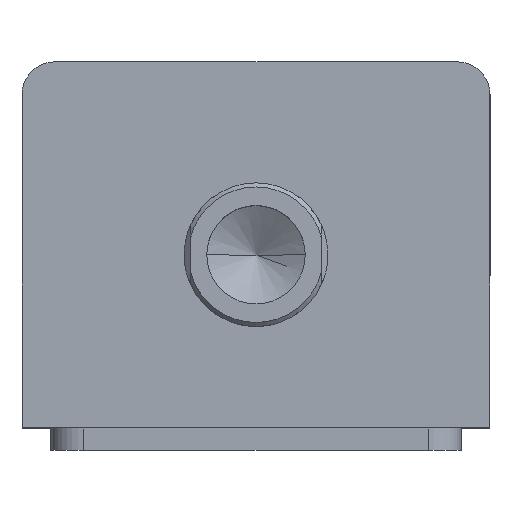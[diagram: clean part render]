
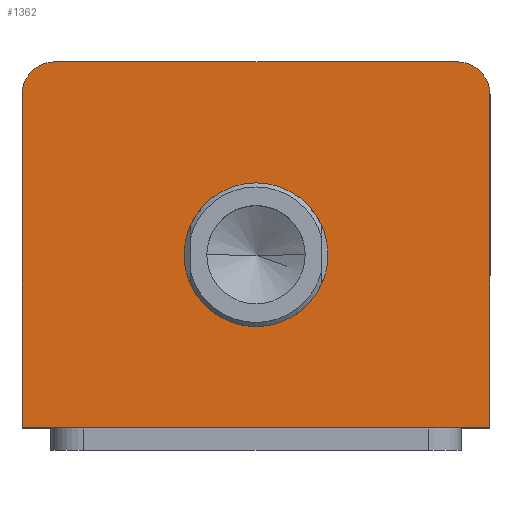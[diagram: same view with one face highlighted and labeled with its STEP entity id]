
A CAD part, top view. The second image highlights one B-rep face of the part: STEP entity #1362.
In plain terms, the highlighted planar face has unit normal (0, 0, 1).
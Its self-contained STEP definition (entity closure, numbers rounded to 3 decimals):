
#193 = EDGE_CURVE ( 'NONE', #2608, #2599, #2399, .T. ) ;
#226 = VECTOR ( 'NONE', #716, 1000. ) ;
#233 = LINE ( 'NONE', #749, #226 ) ;
#538 = DIRECTION ( 'NONE',  ( 1., 0., 0. ) ) ;
#539 = DIRECTION ( 'NONE',  ( 0., 0., 1. ) ) ;
#546 = CARTESIAN_POINT ( 'NONE',  ( 0., 0., 117. ) ) ;
#551 = PLANE ( 'NONE',  #1220 ) ;
#657 = EDGE_CURVE ( 'NONE', #2242, #2224, #2262, .T. ) ;
#660 = EDGE_CURVE ( 'NONE', #2224, #2242, #2252, .T. ) ;
#666 = EDGE_CURVE ( 'NONE', #2402, #2264, #233, .T. ) ;
#716 = DIRECTION ( 'NONE',  ( 1., 0., 0. ) ) ;
#749 = CARTESIAN_POINT ( 'NONE',  ( -57., -44.5, 117. ) ) ;
#757 = DIRECTION ( 'NONE',  ( 0., 0., 1. ) ) ;
#764 = DIRECTION ( 'NONE',  ( 1., 0., 0. ) ) ;
#766 = CARTESIAN_POINT ( 'NONE',  ( 0., -2.5, 117. ) ) ;
#784 = DIRECTION ( 'NONE',  ( 1., 0., 0. ) ) ;
#785 = DIRECTION ( 'NONE',  ( 0., 0., 1. ) ) ;
#789 = CARTESIAN_POINT ( 'NONE',  ( 0., -2.5, 117. ) ) ;
#925 = VECTOR ( 'NONE', #3100, 1000. ) ;
#928 = LINE ( 'NONE', #3101, #925 ) ;
#934 = CIRCLE ( 'NONE', #2693, 8. ) ;
#946 = CIRCLE ( 'NONE', #1197, 8. ) ;
#1056 = ORIENTED_EDGE ( 'NONE', *, *, #2177, .T. ) ;
#1117 = DIRECTION ( 'NONE',  ( -1., 0., 0. ) ) ;
#1122 = CARTESIAN_POINT ( 'NONE',  ( -57., 44.5, 117. ) ) ;
#1197 = AXIS2_PLACEMENT_3D ( 'NONE', #3154, #3153, #3152 ) ;
#1212 = VECTOR ( 'NONE', #3112, 1000. ) ;
#1216 = LINE ( 'NONE', #3113, #1212 ) ;
#1220 = AXIS2_PLACEMENT_3D ( 'NONE', #546, #539, #538 ) ;
#1311 = AXIS2_PLACEMENT_3D ( 'NONE', #766, #757, #764 ) ;
#1317 = AXIS2_PLACEMENT_3D ( 'NONE', #789, #785, #784 ) ;
#1362 = ADVANCED_FACE ( 'NONE', ( #1499, #1504 ), #551, .T. ) ;
#1499 = FACE_BOUND ( 'NONE', #2461, .T. ) ;
#1504 = FACE_OUTER_BOUND ( 'NONE', #2453, .T. ) ;
#1712 = ORIENTED_EDGE ( 'NONE', *, *, #666, .T. ) ;
#1714 = ORIENTED_EDGE ( 'NONE', *, *, #193, .T. ) ;
#1718 = ORIENTED_EDGE ( 'NONE', *, *, #660, .F. ) ;
#1722 = ORIENTED_EDGE ( 'NONE', *, *, #2156, .T. ) ;
#1725 = ORIENTED_EDGE ( 'NONE', *, *, #2186, .T. ) ;
#1727 = ORIENTED_EDGE ( 'NONE', *, *, #2190, .T. ) ;
#1728 = ORIENTED_EDGE ( 'NONE', *, *, #657, .F. ) ;
#2156 = EDGE_CURVE ( 'NONE', #2264, #2396, #1216, .T. ) ;
#2177 = EDGE_CURVE ( 'NONE', #2396, #2608, #946, .T. ) ;
#2186 = EDGE_CURVE ( 'NONE', #2599, #2591, #934, .T. ) ;
#2190 = EDGE_CURVE ( 'NONE', #2591, #2402, #928, .T. ) ;
#2224 = VERTEX_POINT ( 'NONE', #3077 ) ;
#2242 = VERTEX_POINT ( 'NONE', #3067 ) ;
#2252 = CIRCLE ( 'NONE', #1311, 17.5 ) ;
#2262 = CIRCLE ( 'NONE', #1317, 17.5 ) ;
#2264 = VERTEX_POINT ( 'NONE', #3060 ) ;
#2388 = VECTOR ( 'NONE', #1117, 1000. ) ;
#2396 = VERTEX_POINT ( 'NONE', #3031 ) ;
#2399 = LINE ( 'NONE', #1122, #2388 ) ;
#2402 = VERTEX_POINT ( 'NONE', #3026 ) ;
#2453 = EDGE_LOOP ( 'NONE', ( #1714, #1725, #1727, #1712, #1722, #1056 ) ) ;
#2461 = EDGE_LOOP ( 'NONE', ( #1718, #1728 ) ) ;
#2591 = VERTEX_POINT ( 'NONE', #3004 ) ;
#2599 = VERTEX_POINT ( 'NONE', #2996 ) ;
#2608 = VERTEX_POINT ( 'NONE', #2986 ) ;
#2693 = AXIS2_PLACEMENT_3D ( 'NONE', #3116, #3115, #3114 ) ;
#2986 = CARTESIAN_POINT ( 'NONE',  ( 49., 44.5, 117. ) ) ;
#2996 = CARTESIAN_POINT ( 'NONE',  ( -49., 44.5, 117. ) ) ;
#3004 = CARTESIAN_POINT ( 'NONE',  ( -57., 36.5, 117. ) ) ;
#3026 = CARTESIAN_POINT ( 'NONE',  ( -57., -44.5, 117. ) ) ;
#3031 = CARTESIAN_POINT ( 'NONE',  ( 57., 36.5, 117. ) ) ;
#3060 = CARTESIAN_POINT ( 'NONE',  ( 57., -44.5, 117. ) ) ;
#3067 = CARTESIAN_POINT ( 'NONE',  ( -17.5, -2.5, 117. ) ) ;
#3077 = CARTESIAN_POINT ( 'NONE',  ( 17.5, -2.5, 117. ) ) ;
#3100 = DIRECTION ( 'NONE',  ( 0., -1., 0. ) ) ;
#3101 = CARTESIAN_POINT ( 'NONE',  ( -57., 44.5, 117. ) ) ;
#3112 = DIRECTION ( 'NONE',  ( 0., 1., 0. ) ) ;
#3113 = CARTESIAN_POINT ( 'NONE',  ( 57., 44.5, 117. ) ) ;
#3114 = DIRECTION ( 'NONE',  ( 1., 0., 0. ) ) ;
#3115 = DIRECTION ( 'NONE',  ( 0., 0., 1. ) ) ;
#3116 = CARTESIAN_POINT ( 'NONE',  ( -49., 36.5, 117. ) ) ;
#3152 = DIRECTION ( 'NONE',  ( 1., 0., 0. ) ) ;
#3153 = DIRECTION ( 'NONE',  ( 0., 0., 1. ) ) ;
#3154 = CARTESIAN_POINT ( 'NONE',  ( 49., 36.5, 117. ) ) ;
